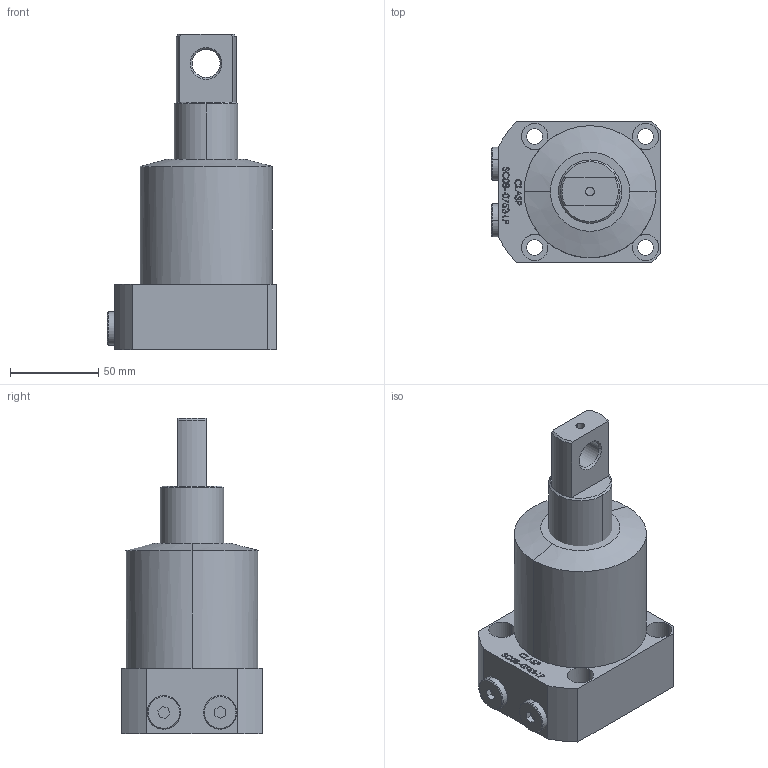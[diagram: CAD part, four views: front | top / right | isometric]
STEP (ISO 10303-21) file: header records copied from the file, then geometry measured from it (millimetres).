
FILE_DESCRIPTION (( 'STEP AP203' ), '1' );
FILE_NAME ('SC08-0752-LP.STEP', '2022-07-08T17:04:36', ( '' ), ( '' ), 'SwSTEP 2.0', 'SolidWorks 2017', '' );
FILE_SCHEMA (( 'CONFIG_CONTROL_DESIGN' ));
Length unit declared in the file: millimetre
Products named in the file (4): SC-08-0752-LP BODY; SC-08-0752-LP-Piston; SC-08-0752-LP- 05 plug; SC08-0752-LP
Assembly tree (4 placements, depth 2):
  SC08-0752-LP
    SC-08-0752-LP BODY
    SC-08-0752-LP-Piston
    SC-08-0752-LP- 05 plug  x2
Bounding box: 96 x 80 x 179 mm (x, y, z)
Volume: 619349.9 mm3; surface area: 63027.8 mm2
Topology: 4 solids, 4 shells, 329 faces, 824 edges, 540 vertices
Faces by surface type: plane 152, bspline 109, cylinder 50, cone 18
Entity records: 16076 total; most frequent: CARTESIAN_POINT 8704, ORIENTED_EDGE 1584, DIRECTION 1118, EDGE_CURVE 792, VERTEX_POINT 520, VECTOR 442, LINE 442, EDGE_LOOP 362
